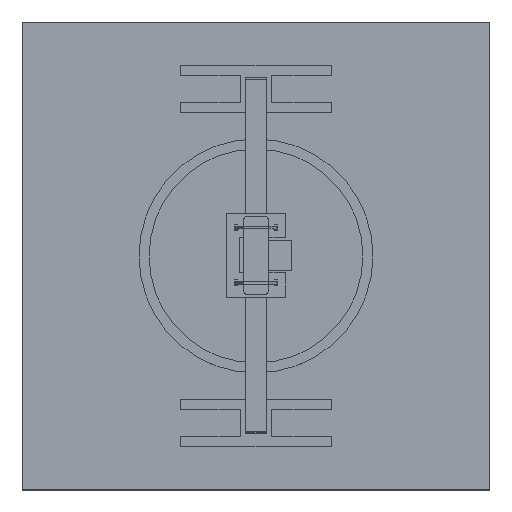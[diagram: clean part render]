
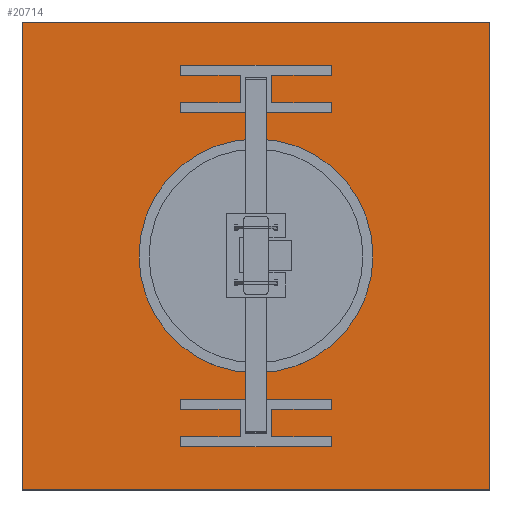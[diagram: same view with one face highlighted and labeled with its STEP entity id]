
A CAD part, top view. The second image highlights one B-rep face of the part: STEP entity #20714.
In plain terms, the highlighted planar face has unit normal (0, 0, 1).
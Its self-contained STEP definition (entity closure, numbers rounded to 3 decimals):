
#20400 = VERTEX_POINT('',#20401);
#20401 = CARTESIAN_POINT('',(-280.,-280.,0.));
#20408 = PLANE('',#20409);
#20409 = AXIS2_PLACEMENT_3D('',#20410,#20411,#20412);
#20410 = CARTESIAN_POINT('',(-280.,-280.,-24.));
#20411 = DIRECTION('',(1.,0.,0.));
#20412 = DIRECTION('',(0.,0.,1.));
#20420 = PLANE('',#20421);
#20421 = AXIS2_PLACEMENT_3D('',#20422,#20423,#20424);
#20422 = CARTESIAN_POINT('',(-280.,-280.,-24.));
#20423 = DIRECTION('',(0.,1.,0.));
#20424 = DIRECTION('',(0.,0.,1.));
#20461 = VERTEX_POINT('',#20462);
#20462 = CARTESIAN_POINT('',(-280.,280.,0.));
#20476 = PLANE('',#20477);
#20477 = AXIS2_PLACEMENT_3D('',#20478,#20479,#20480);
#20478 = CARTESIAN_POINT('',(-280.,280.,-24.));
#20479 = DIRECTION('',(0.,1.,0.));
#20480 = DIRECTION('',(0.,0.,1.));
#20488 = EDGE_CURVE('',#20400,#20461,#20489,.T.);
#20489 = SURFACE_CURVE('',#20490,(#20494,#20501),.PCURVE_S1.);
#20490 = LINE('',#20491,#20492);
#20491 = CARTESIAN_POINT('',(-280.,-280.,0.));
#20492 = VECTOR('',#20493,1.);
#20493 = DIRECTION('',(0.,1.,0.));
#20494 = PCURVE('',#20408,#20495);
#20495 = DEFINITIONAL_REPRESENTATION('',(#20496),#20500);
#20496 = LINE('',#20497,#20498);
#20497 = CARTESIAN_POINT('',(24.,0.));
#20498 = VECTOR('',#20499,1.);
#20499 = DIRECTION('',(0.,-1.));
#20500 = ( GEOMETRIC_REPRESENTATION_CONTEXT(2) 
PARAMETRIC_REPRESENTATION_CONTEXT() REPRESENTATION_CONTEXT('2D SPACE',''
  ) );
#20501 = PCURVE('',#20502,#20507);
#20502 = PLANE('',#20503);
#20503 = AXIS2_PLACEMENT_3D('',#20504,#20505,#20506);
#20504 = CARTESIAN_POINT('',(-280.,-280.,0.));
#20505 = DIRECTION('',(0.,0.,1.));
#20506 = DIRECTION('',(1.,0.,0.));
#20507 = DEFINITIONAL_REPRESENTATION('',(#20508),#20512);
#20508 = LINE('',#20509,#20510);
#20509 = CARTESIAN_POINT('',(0.,0.));
#20510 = VECTOR('',#20511,1.);
#20511 = DIRECTION('',(0.,1.));
#20512 = ( GEOMETRIC_REPRESENTATION_CONTEXT(2) 
PARAMETRIC_REPRESENTATION_CONTEXT() REPRESENTATION_CONTEXT('2D SPACE',''
  ) );
#20520 = VERTEX_POINT('',#20521);
#20521 = CARTESIAN_POINT('',(280.,-280.,0.));
#20528 = PLANE('',#20529);
#20529 = AXIS2_PLACEMENT_3D('',#20530,#20531,#20532);
#20530 = CARTESIAN_POINT('',(280.,-280.,-24.));
#20531 = DIRECTION('',(1.,0.,0.));
#20532 = DIRECTION('',(0.,0.,1.));
#20571 = VERTEX_POINT('',#20572);
#20572 = CARTESIAN_POINT('',(280.,280.,0.));
#20593 = EDGE_CURVE('',#20520,#20571,#20594,.T.);
#20594 = SURFACE_CURVE('',#20595,(#20599,#20606),.PCURVE_S1.);
#20595 = LINE('',#20596,#20597);
#20596 = CARTESIAN_POINT('',(280.,-280.,0.));
#20597 = VECTOR('',#20598,1.);
#20598 = DIRECTION('',(0.,1.,0.));
#20599 = PCURVE('',#20528,#20600);
#20600 = DEFINITIONAL_REPRESENTATION('',(#20601),#20605);
#20601 = LINE('',#20602,#20603);
#20602 = CARTESIAN_POINT('',(24.,0.));
#20603 = VECTOR('',#20604,1.);
#20604 = DIRECTION('',(0.,-1.));
#20605 = ( GEOMETRIC_REPRESENTATION_CONTEXT(2) 
PARAMETRIC_REPRESENTATION_CONTEXT() REPRESENTATION_CONTEXT('2D SPACE',''
  ) );
#20606 = PCURVE('',#20502,#20607);
#20607 = DEFINITIONAL_REPRESENTATION('',(#20608),#20612);
#20608 = LINE('',#20609,#20610);
#20609 = CARTESIAN_POINT('',(560.,0.));
#20610 = VECTOR('',#20611,1.);
#20611 = DIRECTION('',(0.,1.));
#20612 = ( GEOMETRIC_REPRESENTATION_CONTEXT(2) 
PARAMETRIC_REPRESENTATION_CONTEXT() REPRESENTATION_CONTEXT('2D SPACE',''
  ) );
#20639 = EDGE_CURVE('',#20400,#20520,#20640,.T.);
#20640 = SURFACE_CURVE('',#20641,(#20645,#20652),.PCURVE_S1.);
#20641 = LINE('',#20642,#20643);
#20642 = CARTESIAN_POINT('',(-280.,-280.,0.));
#20643 = VECTOR('',#20644,1.);
#20644 = DIRECTION('',(1.,0.,0.));
#20645 = PCURVE('',#20420,#20646);
#20646 = DEFINITIONAL_REPRESENTATION('',(#20647),#20651);
#20647 = LINE('',#20648,#20649);
#20648 = CARTESIAN_POINT('',(24.,0.));
#20649 = VECTOR('',#20650,1.);
#20650 = DIRECTION('',(0.,1.));
#20651 = ( GEOMETRIC_REPRESENTATION_CONTEXT(2) 
PARAMETRIC_REPRESENTATION_CONTEXT() REPRESENTATION_CONTEXT('2D SPACE',''
  ) );
#20652 = PCURVE('',#20502,#20653);
#20653 = DEFINITIONAL_REPRESENTATION('',(#20654),#20658);
#20654 = LINE('',#20655,#20656);
#20655 = CARTESIAN_POINT('',(0.,0.));
#20656 = VECTOR('',#20657,1.);
#20657 = DIRECTION('',(1.,0.));
#20658 = ( GEOMETRIC_REPRESENTATION_CONTEXT(2) 
PARAMETRIC_REPRESENTATION_CONTEXT() REPRESENTATION_CONTEXT('2D SPACE',''
  ) );
#20686 = EDGE_CURVE('',#20461,#20571,#20687,.T.);
#20687 = SURFACE_CURVE('',#20688,(#20692,#20699),.PCURVE_S1.);
#20688 = LINE('',#20689,#20690);
#20689 = CARTESIAN_POINT('',(-280.,280.,0.));
#20690 = VECTOR('',#20691,1.);
#20691 = DIRECTION('',(1.,0.,0.));
#20692 = PCURVE('',#20476,#20693);
#20693 = DEFINITIONAL_REPRESENTATION('',(#20694),#20698);
#20694 = LINE('',#20695,#20696);
#20695 = CARTESIAN_POINT('',(24.,0.));
#20696 = VECTOR('',#20697,1.);
#20697 = DIRECTION('',(0.,1.));
#20698 = ( GEOMETRIC_REPRESENTATION_CONTEXT(2) 
PARAMETRIC_REPRESENTATION_CONTEXT() REPRESENTATION_CONTEXT('2D SPACE',''
  ) );
#20699 = PCURVE('',#20502,#20700);
#20700 = DEFINITIONAL_REPRESENTATION('',(#20701),#20705);
#20701 = LINE('',#20702,#20703);
#20702 = CARTESIAN_POINT('',(0.,560.));
#20703 = VECTOR('',#20704,1.);
#20704 = DIRECTION('',(1.,0.));
#20705 = ( GEOMETRIC_REPRESENTATION_CONTEXT(2) 
PARAMETRIC_REPRESENTATION_CONTEXT() REPRESENTATION_CONTEXT('2D SPACE',''
  ) );
#20714 = ADVANCED_FACE('',(#20715),#20502,.T.);
#20715 = FACE_BOUND('',#20716,.T.);
#20716 = EDGE_LOOP('',(#20717,#20718,#20719,#20720));
#20717 = ORIENTED_EDGE('',*,*,#20488,.F.);
#20718 = ORIENTED_EDGE('',*,*,#20639,.T.);
#20719 = ORIENTED_EDGE('',*,*,#20593,.T.);
#20720 = ORIENTED_EDGE('',*,*,#20686,.F.);
